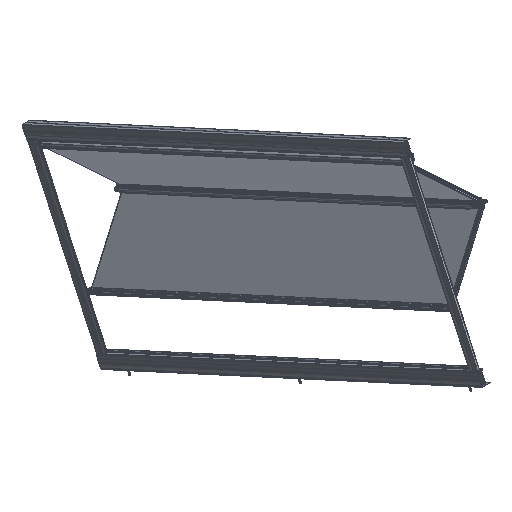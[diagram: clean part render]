
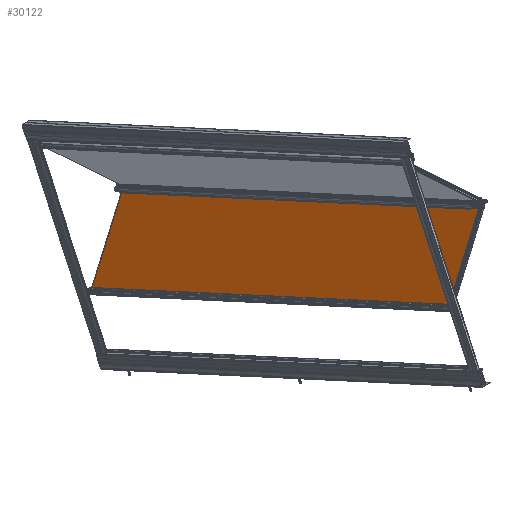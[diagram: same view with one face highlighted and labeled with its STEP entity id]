
A CAD part, isometric view. The second image highlights one B-rep face of the part: STEP entity #30122.
In plain terms, the highlighted planar face has unit normal (-0.71, 0.294, 0.64) as drawn and (0, 0, -1) by its records, which use the part's own axes.
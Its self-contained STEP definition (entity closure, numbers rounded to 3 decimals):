
#1555=PLANE('',#32581);
#2718=FACE_OUTER_BOUND('',#4538,.T.);
#4538=EDGE_LOOP('',(#23346,#23347,#23348,#23349));
#6727=LINE('',#50351,#9174);
#6731=LINE('',#50359,#9178);
#6734=LINE('',#50365,#9181);
#6737=LINE('',#50370,#9184);
#9174=VECTOR('',#38662,1790.);
#9178=VECTOR('',#38668,352.);
#9181=VECTOR('',#38673,1790.);
#9184=VECTOR('',#38678,352.);
#13405=VERTEX_POINT('',#50349);
#13406=VERTEX_POINT('',#50350);
#13409=VERTEX_POINT('',#50358);
#13411=VERTEX_POINT('',#50364);
#17007=EDGE_CURVE('',#13405,#13406,#6727,.T.);
#17011=EDGE_CURVE('',#13406,#13409,#6731,.T.);
#17014=EDGE_CURVE('',#13409,#13411,#6734,.T.);
#17017=EDGE_CURVE('',#13411,#13405,#6737,.T.);
#23346=ORIENTED_EDGE('',*,*,#17017,.T.);
#23347=ORIENTED_EDGE('',*,*,#17007,.T.);
#23348=ORIENTED_EDGE('',*,*,#17011,.T.);
#23349=ORIENTED_EDGE('',*,*,#17014,.T.);
#30122=ADVANCED_FACE('',(#2718),#1555,.F.);
#32581=AXIS2_PLACEMENT_3D('',#50372,#38680,#38681);
#38662=DIRECTION('',(0.,-1.,0.));
#38668=DIRECTION('',(-1.,0.,0.));
#38673=DIRECTION('',(0.,1.,0.));
#38678=DIRECTION('',(1.,0.,0.));
#38680=DIRECTION('center_axis',(0.,0.,1.));
#38681=DIRECTION('ref_axis',(1.,0.,0.));
#50349=CARTESIAN_POINT('',(338.902,1771.023,0.));
#50350=CARTESIAN_POINT('',(338.902,-18.977,0.));
#50351=CARTESIAN_POINT('',(338.902,1771.023,0.));
#50358=CARTESIAN_POINT('',(-13.098,-18.977,0.));
#50359=CARTESIAN_POINT('',(338.902,-18.977,0.));
#50364=CARTESIAN_POINT('',(-13.098,1771.023,0.));
#50365=CARTESIAN_POINT('',(-13.098,-18.977,0.));
#50370=CARTESIAN_POINT('',(-13.098,1771.023,0.));
#50372=CARTESIAN_POINT('Origin',(162.902,876.023,0.));
